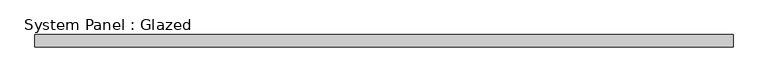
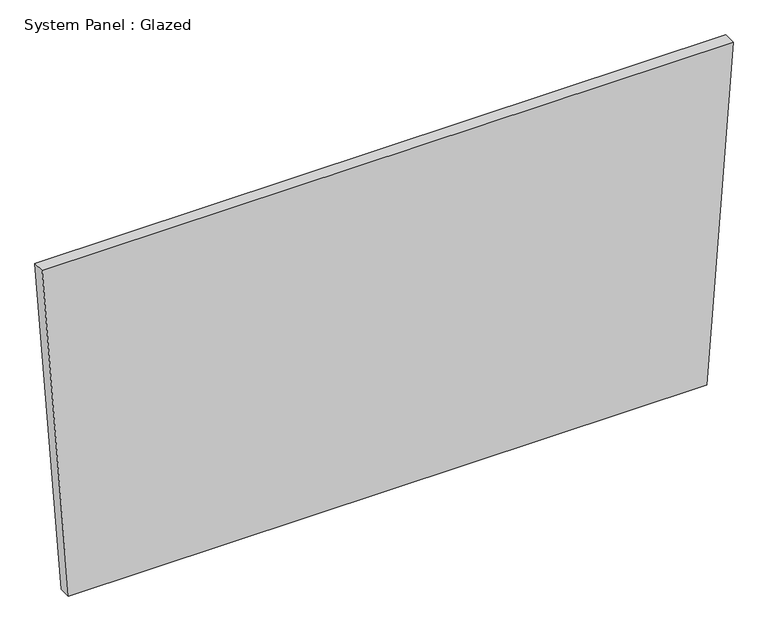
"""IFC4 building model written with IfcOpenShell, lengths in millimetres: plate geometry, System Panel : Glazed."""

from ifc_helpers import new_model, si_unit, frame, origin, place, context, project, spatial, polyline, outline, extrude, source, transform, mapped, element, save


def system_panel_glazed_2f6e3617(model_context):
    return source(origin(), model_context, "Body", "SweptSolid", [
        extrude(outline(polyline([(0.0, -652.0099623), (0.0143801, 652.0111101), (722.9167741, 705.8573696), (722.917803, -705.8573696), (0.0, -652.0099623)])), frame((0.0, 19.05, 0.0), z_axis=(0.0, 1.0, 0.0), x_axis=(0.0, 0.0, 1.0)), (0.0, 0.0, 1.0), 25.4),
    ])


if __name__ == "__main__":
    model = new_model("IFC4")
    model_context = context("Model", 3, world=origin())
    ifc_project = project(units=[si_unit("LENGTHUNIT", "METRE", prefix="MILLI")], contexts=[model_context])
    site = spatial("IfcSite", under=ifc_project)
    building = spatial("IfcBuilding", under=site)
    placement = place(None, origin())
    system_panel_glazed_shape = system_panel_glazed_2f6e3617(model_context)
    element("IfcPlate", 1, ObjectType="System Panel : Glazed", at=placement, inside=building, context=model_context, shape_type="MappedRepresentation", body=[
        mapped(system_panel_glazed_shape, transform((0.0, 0.0, 0.0), x_axis=(1.0, 0.0, 0.0), y_axis=(0.0, 1.0, 0.0), z_axis=(0.0, 0.0, 1.0))),
    ])
    save(model, "model.ifc")
